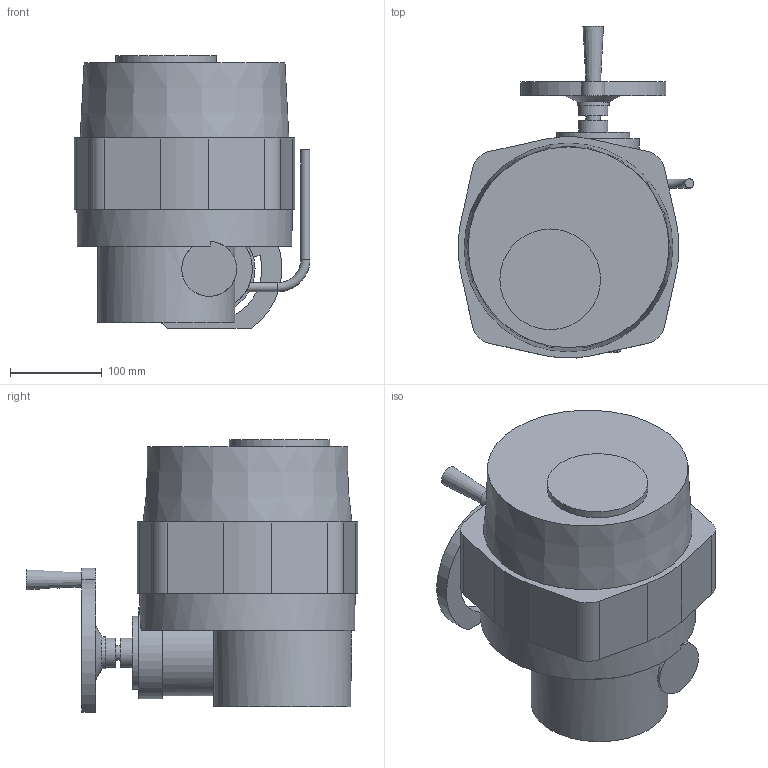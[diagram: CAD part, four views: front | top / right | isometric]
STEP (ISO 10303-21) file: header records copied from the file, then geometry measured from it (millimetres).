
FILE_DESCRIPTION(('STEP AP203'), '1');
FILE_NAME('Ýëåêòðîïðèâîä QT.A 060 áåç áëîêà óïðàâëåíèÿ', '', ('UNSPECIFIED'), ('UNSPECIFIED'), 'ASCON STEP Converter 1.6', 'ASCON Math Kernel', '');
FILE_SCHEMA(('CONFIG_CONTROL_DESIGN'));
Length unit declared in the file: millimetre
Bounding box: 257.68 x 362.68 x 298 mm (x, y, z)
Volume: 11328004.3 mm3; surface area: 376827.1 mm2
Topology: 1 solids, 1 shells, 91 faces, 202 edges, 133 vertices
Faces by surface type: plane 47, cylinder 40, cone 3, torus 1
Full cylindrical faces by diameter (mm): 8.5 x4, 10 x2, 10.25 x4, 16 x1, 32 x3, 35 x1, 80 x1, 100 x1, 110 x1, 150 x1, 235 x1
Entity records: 3757 total; most frequent: CARTESIAN_POINT 968, DIRECTION 445, ORIENTED_EDGE 356, AXIS2_PLACEMENT_3D 182, EDGE_CURVE 178, EDGE_LOOP 141, VERTEX_POINT 133, FACE_BOUND 96
